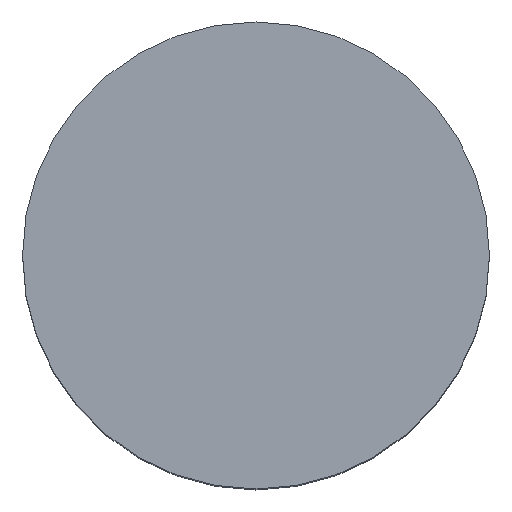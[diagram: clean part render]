
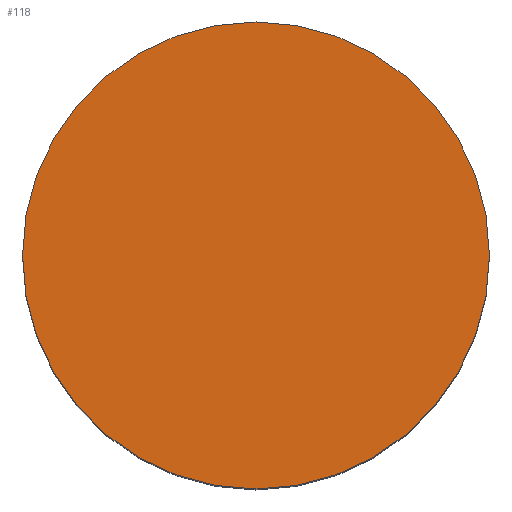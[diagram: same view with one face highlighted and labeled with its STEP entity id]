
A CAD part, top view. The second image highlights one B-rep face of the part: STEP entity #118.
In plain terms, the highlighted planar face has unit normal (0, 0, 1).
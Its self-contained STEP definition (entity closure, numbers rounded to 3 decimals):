
#118=ADVANCED_FACE('',(#128),#120,.T.);
#120=PLANE('',#215);
#128=FACE_OUTER_BOUND('',#136,.T.);
#136=EDGE_LOOP('',(#163,#164));
#163=ORIENTED_EDGE('',*,*,#186,.T.);
#164=ORIENTED_EDGE('',*,*,#184,.T.);
#171=VERTEX_POINT('',#281);
#172=VERTEX_POINT('',#283);
#184=EDGE_CURVE('',#172,#171,#195,.T.);
#186=EDGE_CURVE('',#171,#172,#196,.T.);
#195=CIRCLE('',#211,50.);
#196=CIRCLE('',#213,50.);
#211=AXIS2_PLACEMENT_3D('',#282,#247,#248);
#213=AXIS2_PLACEMENT_3D('',#286,#252,#253);
#215=AXIS2_PLACEMENT_3D('',#288,#256,#257);
#247=DIRECTION('',(0.,0.,1.));
#248=DIRECTION('',(0.,-1.,0.));
#252=DIRECTION('',(0.,0.,1.));
#253=DIRECTION('',(0.,1.,0.));
#256=DIRECTION('',(0.,0.,1.));
#257=DIRECTION('',(0.,1.,0.));
#281=CARTESIAN_POINT('',(-50.,0.,123.));
#282=CARTESIAN_POINT('',(0.,0.,123.));
#283=CARTESIAN_POINT('',(50.,0.,123.));
#286=CARTESIAN_POINT('',(0.,0.,123.));
#288=CARTESIAN_POINT('',(0.,0.,123.));
